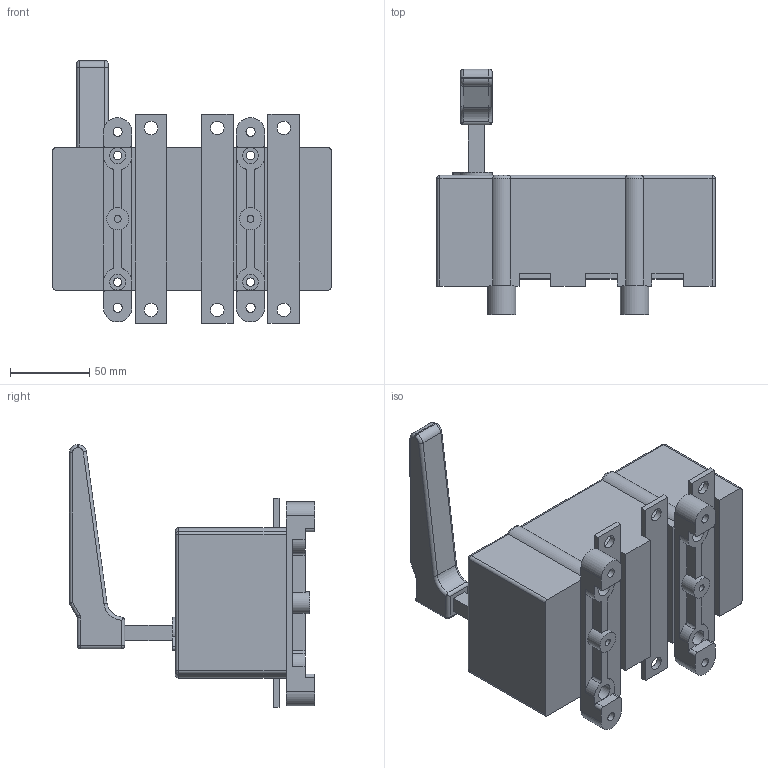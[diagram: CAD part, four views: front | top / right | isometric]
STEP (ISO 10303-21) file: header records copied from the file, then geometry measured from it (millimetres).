
FILE_DESCRIPTION(/* description */ (''),/* implementation_level */ '2;1');
FILE_NAME(/* name */ 'RA250 P3-R.stp',/* time_stamp */ '2021-08-18T07:46:07+02:00',/* author */ (''),/* organization */ (''),/* preprocessor_version */ 'ST-DEVELOPER v18.1',/* originating_system */ 'SIEMENS PLM Software NX 1965',/* authorisation */ '');
FILE_SCHEMA (('AUTOMOTIVE_DESIGN { 1 0 10303 214 3 1 1 1 }'));
Length unit declared in the file: millimetre
Products named in the file (1): RA250 P3-R_stp
Bounding box: 176 x 155 x 166 mm (x, y, z)
Volume: 1185972.4 mm3; surface area: 107272.8 mm2
Topology: 1 solids, 1 shells, 226 faces, 587 edges, 362 vertices
Faces by surface type: plane 108, cylinder 96, torus 12, sphere 10
Full cylindrical faces by diameter (mm): 4.3 x2, 5.3 x4, 5.8 x4, 8.5 x6, 10 x8, 14 x2
Entity records: 6679 total; most frequent: CARTESIAN_POINT 1198, DIRECTION 1177, ORIENTED_EDGE 1074, EDGE_CURVE 537, AXIS2_PLACEMENT_3D 427, VERTEX_POINT 348, LINE 323, VECTOR 323
